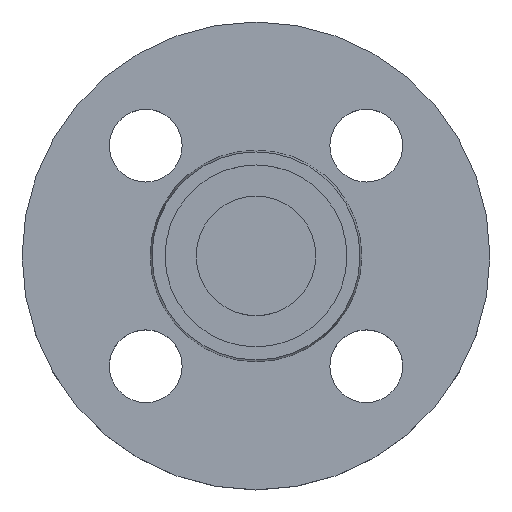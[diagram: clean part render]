
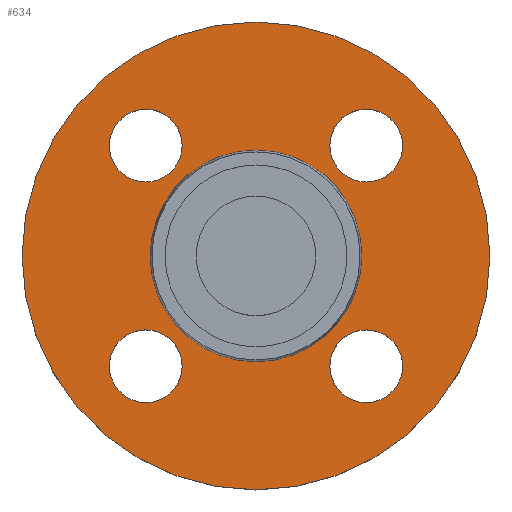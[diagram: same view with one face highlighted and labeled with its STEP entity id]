
A CAD part, top view. The second image highlights one B-rep face of the part: STEP entity #634.
In plain terms, the highlighted planar face has unit normal (0, 0, 1).
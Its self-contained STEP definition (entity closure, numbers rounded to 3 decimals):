
#3 = FACE_BOUND ( 'NONE', #673, .T. ) ;
#5 = FACE_BOUND ( 'NONE', #416, .T. ) ;
#7 = FACE_BOUND ( 'NONE', #363, .T. ) ;
#9 = CIRCLE ( 'NONE', #341, 7. ) ;
#11 = FACE_BOUND ( 'NONE', #395, .T. ) ;
#15 = FACE_BOUND ( 'NONE', #712, .T. ) ;
#21 = CARTESIAN_POINT ( 'NONE',  ( 21.213, 21.213, -2. ) ) ;
#22 = DIRECTION ( 'NONE',  ( 0., 0., -1. ) ) ;
#26 = DIRECTION ( 'NONE',  ( 1., 0., 0. ) ) ;
#34 = CARTESIAN_POINT ( 'NONE',  ( 28.213, 21.213, -2. ) ) ;
#35 = DIRECTION ( 'NONE',  ( 1., 0., 0. ) ) ;
#63 = EDGE_CURVE ( 'NONE', #653, #351, #742, .T. ) ;
#73 = EDGE_CURVE ( 'NONE', #485, #710, #398, .T. ) ;
#100 = CIRCLE ( 'NONE', #101, 7. ) ;
#101 = AXIS2_PLACEMENT_3D ( 'NONE', #868, #869, #870 ) ;
#118 = CARTESIAN_POINT ( 'NONE',  ( -28.213, -21.213, -2. ) ) ;
#119 = CIRCLE ( 'NONE', #380, 7. ) ;
#123 = DIRECTION ( 'NONE',  ( 0., 0., -1. ) ) ;
#124 = CARTESIAN_POINT ( 'NONE',  ( 20.353, 0., -2. ) ) ;
#137 = EDGE_CURVE ( 'NONE', #682, #669, #9, .T. ) ;
#139 = DIRECTION ( 'NONE',  ( -1., 0., 0. ) ) ;
#143 = EDGE_CURVE ( 'NONE', #441, #677, #487, .T. ) ;
#145 = CARTESIAN_POINT ( 'NONE',  ( -20.353, 0., -2. ) ) ;
#147 = DIRECTION ( 'NONE',  ( 0., 0., -1. ) ) ;
#153 = CARTESIAN_POINT ( 'NONE',  ( 21.213, -21.213, -2. ) ) ;
#168 = CARTESIAN_POINT ( 'NONE',  ( 14.213, 21.213, -2. ) ) ;
#170 = DIRECTION ( 'NONE',  ( 1., 0., 0. ) ) ;
#172 = DIRECTION ( 'NONE',  ( 1., 0., 0. ) ) ;
#175 = CARTESIAN_POINT ( 'NONE',  ( 14.213, -21.213, -2. ) ) ;
#180 = CARTESIAN_POINT ( 'NONE',  ( 0., 0., -2. ) ) ;
#184 = CIRCLE ( 'NONE', #186, 20.353 ) ;
#186 = AXIS2_PLACEMENT_3D ( 'NONE', #593, #579, #298 ) ;
#194 = CARTESIAN_POINT ( 'NONE',  ( -21.213, 21.213, -2. ) ) ;
#197 = CIRCLE ( 'NONE', #414, 7. ) ;
#199 = AXIS2_PLACEMENT_3D ( 'NONE', #336, #342, #387 ) ;
#200 = CIRCLE ( 'NONE', #199, 7. ) ;
#217 = CARTESIAN_POINT ( 'NONE',  ( 28.213, -21.213, -2. ) ) ;
#239 = EDGE_CURVE ( 'NONE', #600, #396, #100, .T. ) ;
#254 = DIRECTION ( 'NONE',  ( -1., 0., 0. ) ) ;
#262 = DIRECTION ( 'NONE',  ( 0., 0., -1. ) ) ;
#274 = AXIS2_PLACEMENT_3D ( 'NONE', #124, #615, #35 ) ;
#283 = CARTESIAN_POINT ( 'NONE',  ( -28.213, 21.213, -2. ) ) ;
#298 = DIRECTION ( 'NONE',  ( -1., 0., 0. ) ) ;
#306 = CARTESIAN_POINT ( 'NONE',  ( -45., 0., -2. ) ) ;
#325 = EDGE_CURVE ( 'NONE', #396, #600, #119, .T. ) ;
#328 = PLANE ( 'NONE',  #274 ) ;
#336 = CARTESIAN_POINT ( 'NONE',  ( -21.213, -21.213, -2. ) ) ;
#341 = AXIS2_PLACEMENT_3D ( 'NONE', #799, #801, #802 ) ;
#342 = DIRECTION ( 'NONE',  ( 0., 0., -1. ) ) ;
#351 = VERTEX_POINT ( 'NONE', #306 ) ;
#356 = CARTESIAN_POINT ( 'NONE',  ( -14.213, -21.213, -2. ) ) ;
#363 = EDGE_LOOP ( 'NONE', ( #532, #533 ) ) ;
#380 = AXIS2_PLACEMENT_3D ( 'NONE', #21, #22, #26 ) ;
#382 = EDGE_CURVE ( 'NONE', #710, #485, #665, .T. ) ;
#386 = FACE_OUTER_BOUND ( 'NONE', #557, .T. ) ;
#387 = DIRECTION ( 'NONE',  ( 1., 0., 0. ) ) ;
#395 = EDGE_LOOP ( 'NONE', ( #529, #530 ) ) ;
#396 = VERTEX_POINT ( 'NONE', #168 ) ;
#397 = AXIS2_PLACEMENT_3D ( 'NONE', #755, #757, #760 ) ;
#398 = CIRCLE ( 'NONE', #397, 7. ) ;
#406 = EDGE_CURVE ( 'NONE', #481, #693, #582, .T. ) ;
#414 = AXIS2_PLACEMENT_3D ( 'NONE', #194, #262, #172 ) ;
#416 = EDGE_LOOP ( 'NONE', ( #534, #536 ) ) ;
#418 = AXIS2_PLACEMENT_3D ( 'NONE', #809, #811, #813 ) ;
#430 = CIRCLE ( 'NONE', #465, 45. ) ;
#441 = VERTEX_POINT ( 'NONE', #118 ) ;
#465 = AXIS2_PLACEMENT_3D ( 'NONE', #908, #492, #254 ) ;
#475 = EDGE_CURVE ( 'NONE', #677, #441, #200, .T. ) ;
#481 = VERTEX_POINT ( 'NONE', #145 ) ;
#482 = EDGE_CURVE ( 'NONE', #669, #682, #197, .T. ) ;
#485 = VERTEX_POINT ( 'NONE', #175 ) ;
#487 = CIRCLE ( 'NONE', #418, 7. ) ;
#491 = CARTESIAN_POINT ( 'NONE',  ( 20.353, 0., -2. ) ) ;
#492 = DIRECTION ( 'NONE',  ( 0., 0., -1. ) ) ;
#527 = ORIENTED_EDGE ( 'NONE', *, *, #382, .T. ) ;
#528 = ORIENTED_EDGE ( 'NONE', *, *, #73, .T. ) ;
#529 = ORIENTED_EDGE ( 'NONE', *, *, #475, .T. ) ;
#530 = ORIENTED_EDGE ( 'NONE', *, *, #143, .T. ) ;
#532 = ORIENTED_EDGE ( 'NONE', *, *, #137, .T. ) ;
#533 = ORIENTED_EDGE ( 'NONE', *, *, #482, .T. ) ;
#534 = ORIENTED_EDGE ( 'NONE', *, *, #239, .T. ) ;
#536 = ORIENTED_EDGE ( 'NONE', *, *, #325, .T. ) ;
#538 = ORIENTED_EDGE ( 'NONE', *, *, #406, .T. ) ;
#540 = ORIENTED_EDGE ( 'NONE', *, *, #875, .T. ) ;
#541 = ORIENTED_EDGE ( 'NONE', *, *, #63, .F. ) ;
#542 = ORIENTED_EDGE ( 'NONE', *, *, #775, .F. ) ;
#557 = EDGE_LOOP ( 'NONE', ( #541, #542 ) ) ;
#565 = AXIS2_PLACEMENT_3D ( 'NONE', #180, #123, #139 ) ;
#566 = CARTESIAN_POINT ( 'NONE',  ( -14.213, 21.213, -2. ) ) ;
#579 = DIRECTION ( 'NONE',  ( 0., 0., -1. ) ) ;
#582 = CIRCLE ( 'NONE', #565, 20.353 ) ;
#593 = CARTESIAN_POINT ( 'NONE',  ( 0., 0., -2. ) ) ;
#600 = VERTEX_POINT ( 'NONE', #34 ) ;
#615 = DIRECTION ( 'NONE',  ( 0., 0., 1. ) ) ;
#634 = ADVANCED_FACE ( 'NONE', ( #15, #11, #7, #5, #3, #386 ), #328, .T. ) ;
#653 = VERTEX_POINT ( 'NONE', #728 ) ;
#664 = AXIS2_PLACEMENT_3D ( 'NONE', #153, #147, #170 ) ;
#665 = CIRCLE ( 'NONE', #664, 7. ) ;
#669 = VERTEX_POINT ( 'NONE', #283 ) ;
#673 = EDGE_LOOP ( 'NONE', ( #538, #540 ) ) ;
#677 = VERTEX_POINT ( 'NONE', #356 ) ;
#682 = VERTEX_POINT ( 'NONE', #566 ) ;
#693 = VERTEX_POINT ( 'NONE', #491 ) ;
#710 = VERTEX_POINT ( 'NONE', #217 ) ;
#712 = EDGE_LOOP ( 'NONE', ( #527, #528 ) ) ;
#726 = AXIS2_PLACEMENT_3D ( 'NONE', #747, #748, #749 ) ;
#728 = CARTESIAN_POINT ( 'NONE',  ( 45., 0., -2. ) ) ;
#742 = CIRCLE ( 'NONE', #726, 45. ) ;
#747 = CARTESIAN_POINT ( 'NONE',  ( 0., 0., -2. ) ) ;
#748 = DIRECTION ( 'NONE',  ( 0., 0., -1. ) ) ;
#749 = DIRECTION ( 'NONE',  ( -1., 0., 0. ) ) ;
#755 = CARTESIAN_POINT ( 'NONE',  ( 21.213, -21.213, -2. ) ) ;
#757 = DIRECTION ( 'NONE',  ( 0., 0., -1. ) ) ;
#760 = DIRECTION ( 'NONE',  ( 1., 0., 0. ) ) ;
#775 = EDGE_CURVE ( 'NONE', #351, #653, #430, .T. ) ;
#799 = CARTESIAN_POINT ( 'NONE',  ( -21.213, 21.213, -2. ) ) ;
#801 = DIRECTION ( 'NONE',  ( 0., 0., -1. ) ) ;
#802 = DIRECTION ( 'NONE',  ( 1., 0., 0. ) ) ;
#809 = CARTESIAN_POINT ( 'NONE',  ( -21.213, -21.213, -2. ) ) ;
#811 = DIRECTION ( 'NONE',  ( 0., 0., -1. ) ) ;
#813 = DIRECTION ( 'NONE',  ( 1., 0., 0. ) ) ;
#868 = CARTESIAN_POINT ( 'NONE',  ( 21.213, 21.213, -2. ) ) ;
#869 = DIRECTION ( 'NONE',  ( 0., 0., -1. ) ) ;
#870 = DIRECTION ( 'NONE',  ( 1., 0., 0. ) ) ;
#875 = EDGE_CURVE ( 'NONE', #693, #481, #184, .T. ) ;
#908 = CARTESIAN_POINT ( 'NONE',  ( 0., 0., -2. ) ) ;
